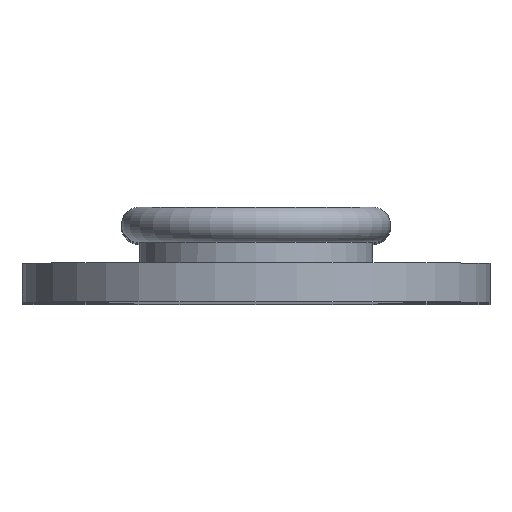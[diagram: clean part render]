
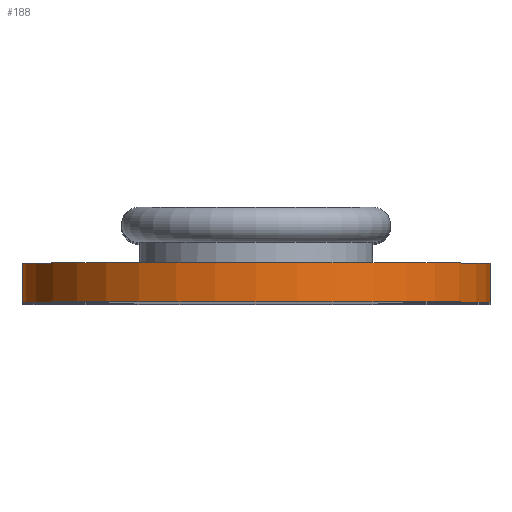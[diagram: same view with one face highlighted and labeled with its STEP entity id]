
A CAD part, top view. The second image highlights one B-rep face of the part: STEP entity #188.
In plain terms, the highlighted cylindrical face has radius 9 mm (diameter 18 mm), a full revolution.
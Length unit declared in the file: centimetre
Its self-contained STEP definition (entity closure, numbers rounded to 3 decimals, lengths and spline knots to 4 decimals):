
#29=CYLINDRICAL_SURFACE('',#222,0.9);
#40=FACE_BOUND('',#84,.T.);
#56=FACE_OUTER_BOUND('',#83,.T.);
#83=EDGE_LOOP('',(#158));
#84=EDGE_LOOP('',(#159));
#101=CIRCLE('',#220,0.9);
#103=CIRCLE('',#223,0.9);
#116=VERTEX_POINT('',#332);
#118=VERTEX_POINT('',#337);
#131=EDGE_CURVE('',#116,#116,#101,.T.);
#133=EDGE_CURVE('',#118,#118,#103,.T.);
#158=ORIENTED_EDGE('',*,*,#133,.F.);
#159=ORIENTED_EDGE('',*,*,#131,.F.);
#188=ADVANCED_FACE('',(#56,#40),#29,.T.);
#220=AXIS2_PLACEMENT_3D('',#333,#278,#279);
#222=AXIS2_PLACEMENT_3D('',#336,#282,#283);
#223=AXIS2_PLACEMENT_3D('',#338,#284,#285);
#278=DIRECTION('center_axis',(0.,1.,0.));
#279=DIRECTION('ref_axis',(1.,0.,0.));
#282=DIRECTION('center_axis',(0.,1.,0.));
#283=DIRECTION('ref_axis',(1.,0.,0.));
#284=DIRECTION('center_axis',(0.,-1.,0.));
#285=DIRECTION('ref_axis',(1.,0.,0.));
#332=CARTESIAN_POINT('',(0.74,0.2937,5.151));
#333=CARTESIAN_POINT('Origin',(-0.16,0.2937,5.151));
#336=CARTESIAN_POINT('Origin',(-0.16,0.2437,5.151));
#337=CARTESIAN_POINT('',(-1.06,0.1437,5.151));
#338=CARTESIAN_POINT('Origin',(-0.16,0.1437,5.151));
